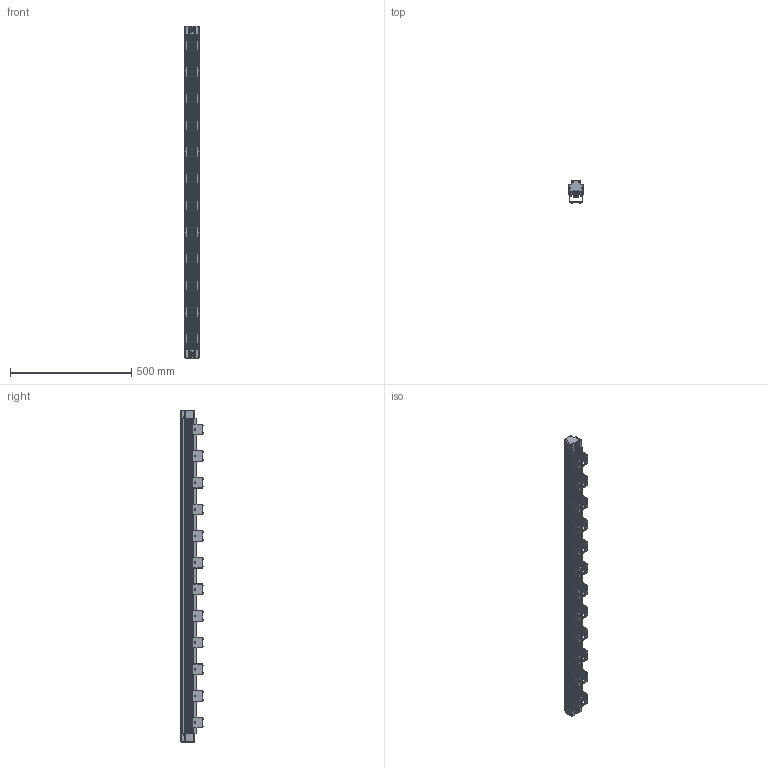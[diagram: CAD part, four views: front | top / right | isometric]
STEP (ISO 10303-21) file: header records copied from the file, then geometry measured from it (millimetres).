
FILE_DESCRIPTION((''),'2;1');
FILE_NAME('P-LSG-1300_ASM','2021-12-01T',('hyj'),(''),'PRO/ENGINEER BY PARAMETRIC TECHNOLOGY CORPORATION, 2010100','PRO/ENGINEER BY PARAMETRIC TECHNOLOGY CORPORATION, 2010100','');
FILE_SCHEMA(('CONFIG_CONTROL_DESIGN'));
Length unit declared in the file: millimetre
Products named in the file (3): SRP; FSZ; P-LSG-1300_ASM
Assembly tree (13 placements, depth 2):
  P-LSG-1300_ASM
    SRP
    FSZ  x12
Bounding box: 58 x 92.5 x 1370 mm (x, y, z)
Volume: 3737253.8 mm3; surface area: 1020974.3 mm2
Topology: 13 solids, 63 shells, 1400 faces, 3644 edges, 2288 vertices
Faces by surface type: plane 746, cylinder 462, cone 192
Entity records: 19267 total; most frequent: DIRECTION 3454, CARTESIAN_POINT 3272, ORIENTED_EDGE 3172, EDGE_CURVE 1594, AXIS2_PLACEMENT_3D 1190, VECTOR 1074, LINE 1074, VERTEX_POINT 1008
